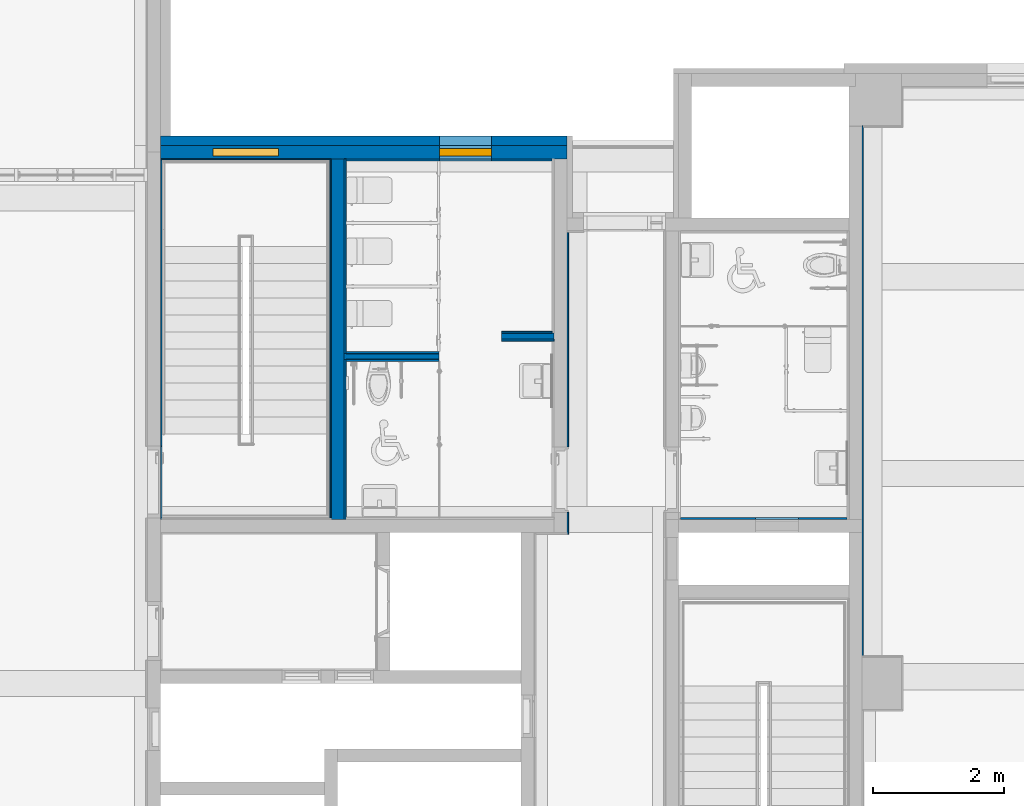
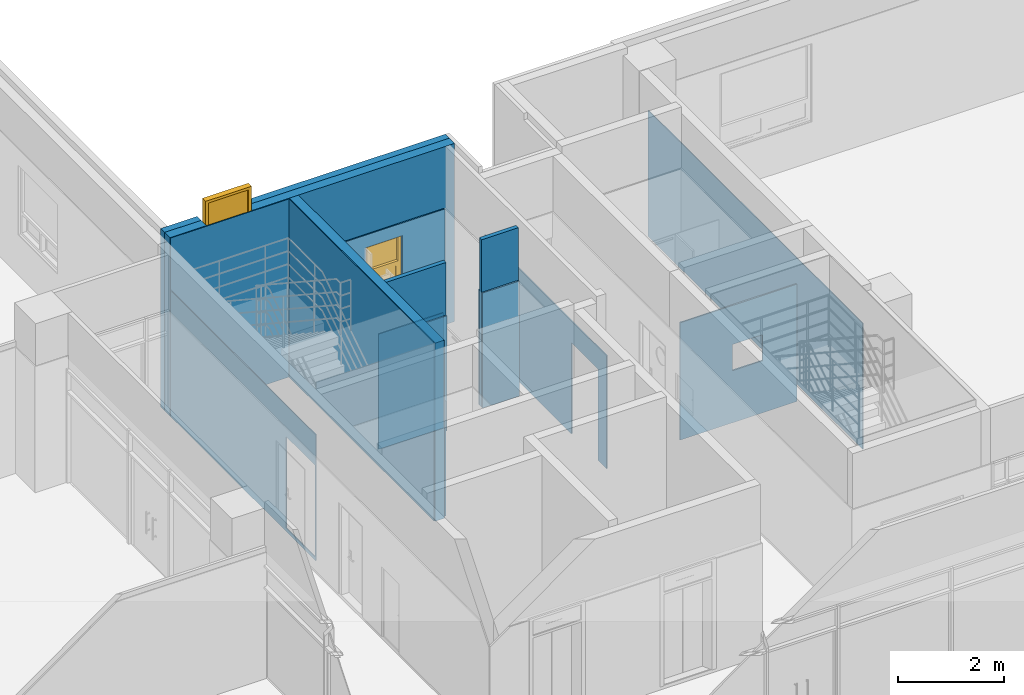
# One storey, part 59 of 81: 17 walls, 2 windows, 10 openings.
"""IFC2X3 building model written with IfcOpenShell, lengths in millimetres."""

import ifcopenshell
import ifcopenshell.guid

model = None  # the IFC model being written
_history = None  # IfcOwnerHistory: only IFC2X3 demands one
_inside = {}  # id of a spatial element -> (the spatial element, [elements in it])
_under = {}  # id of a project, library or spatial element -> (it, [spatial elements below it])
_declared = {}  # id of a project -> (the project, [libraries it declares])
_typed = {}  # id of a type object -> (the type object, [elements of that type])
_made_of = {}  # id of a material, layer set ... -> (it, [elements and type objects made of it])


def new_model(schema):
    """Start an empty IFC model of exactly this schema.

    Asked for "IFC4X3", IfcOpenShell would pick the latest addendum, in which some entities
    have other attributes; the version numbers below select the first issue.
    IFC2X3 requires an IfcOwnerHistory on every rooted entity: one is made here for all.
    """
    global model, _history
    if schema == "IFC4X3":
        model = ifcopenshell.file(schema_version=(4, 3, 0, 0))
    else:
        model = ifcopenshell.file(schema=schema)
    _inside.clear()
    _under.clear()
    _declared.clear()
    _typed.clear()
    _made_of.clear()
    _history = None
    if model.schema == "IFC2X3":
        org = make("IfcOrganization", Name="unknown")
        user = make(
            "IfcPersonAndOrganization",
            ThePerson=make("IfcPerson", FamilyName="unknown"),
            TheOrganization=org,
        )
        app = make(
            "IfcApplication",
            ApplicationDeveloper=org,
            Version="unknown",
            ApplicationFullName="unknown",
            ApplicationIdentifier="unknown",
        )
        _history = make(
            "IfcOwnerHistory",
            OwningUser=user,
            OwningApplication=app,
            ChangeAction="ADDED",
            CreationDate=0,
        )
    return model


def make(cls, **values):
    """One entity of the class cls with the attributes given. An attribute that is None is left unset."""
    return model.create_entity(
        cls, **{name: value for name, value in values.items() if value is not None}
    )


def entity(cls, *values):
    """Any entity or typed value of the class cls, its attributes in the order of the schema. None: left unset."""
    e = model.create_entity(cls)
    for i, value in enumerate(values):
        if value is not None:
            e[i] = value
    return e


def rooted(cls, **values):
    """An entity with a GlobalId (a new one), such as an element, a storey or a relation."""
    return make(cls, GlobalId=ifcopenshell.guid.new(), OwnerHistory=_history, **values)


def si_unit(unit_type, name, prefix=None):
    """IfcSIUnit, for example si_unit("LENGTHUNIT", "METRE", prefix="MILLI")."""
    return make("IfcSIUnit", UnitType=unit_type, Prefix=prefix, Name=name)


def converted_unit(unit_type, name, factor, base, dimensions=None, offset=None):
    """IfcConversionBasedUnit, such as the inch: factor (a typed value) times the base unit."""
    return make(
        "IfcConversionBasedUnit"
        if offset is None
        else "IfcConversionBasedUnitWithOffset",
        ConversionOffset=offset,
        Dimensions=None
        if dimensions is None
        else entity("IfcDimensionalExponents", *dimensions),
        UnitType=unit_type,
        Name=name,
        ConversionFactor=make(
            "IfcMeasureWithUnit", ValueComponent=factor, UnitComponent=base
        ),
    )


def derived_unit(unit_type, elements):
    """IfcDerivedUnit: a product of units, each with its exponent."""
    return make(
        "IfcDerivedUnit",
        Elements=[
            make("IfcDerivedUnitElement", Unit=unit, Exponent=power)
            for unit, power in elements
        ],
        UnitType=unit_type,
    )


def assignment(units):
    """IfcUnitAssignment: the units of a project."""
    return None if units is None else make("IfcUnitAssignment", Units=units)


def point(xyz):
    """IfcCartesianPoint."""
    return None if xyz is None else make("IfcCartesianPoint", Coordinates=xyz)


def direction(xyz):
    """IfcDirection."""
    return None if xyz is None else make("IfcDirection", DirectionRatios=xyz)


def frame(location, z_axis=None, x_axis=None):
    """IfcAxis2Placement3D, a coordinate frame: its origin and axes. An axis left out is left unset."""
    return make(
        "IfcAxis2Placement3D",
        Location=point(location),
        Axis=direction(z_axis),
        RefDirection=direction(x_axis),
    )


def frame_2d(location, x_axis=None):
    """IfcAxis2Placement2D, a coordinate frame in the plane: its origin and x axis."""
    return make(
        "IfcAxis2Placement2D", Location=point(location), RefDirection=direction(x_axis)
    )


def origin():
    """The frame at (0, 0, 0) with its axes left unset."""
    return frame((0.0, 0.0, 0.0))


def origin_2d_with_axis():
    """The frame at (0, 0) in the plane with the x axis (1, 0) written out."""
    return frame_2d((0.0, 0.0), x_axis=(1.0, 0.0))


def place(relative_to, where):
    """IfcLocalPlacement: puts the frame where relative to a parent placement (None: the world)."""
    return make(
        "IfcLocalPlacement", PlacementRelTo=relative_to, RelativePlacement=where
    )


def context(
    kind, dimensions, precision=None, world=None, true_north=None, identifier=None
):
    """IfcGeometricRepresentationContext, for example the 3D "Model" context."""
    return make(
        "IfcGeometricRepresentationContext",
        ContextIdentifier=identifier,
        ContextType=kind,
        CoordinateSpaceDimension=dimensions,
        Precision=precision,
        WorldCoordinateSystem=world,
        TrueNorth=true_north,
    )


def subcontext(parent, identifier, kind, view, scale=None):
    """IfcGeometricRepresentationSubContext, for example "Body" below "Model"."""
    return make(
        "IfcGeometricRepresentationSubContext",
        ContextIdentifier=identifier,
        ContextType=kind,
        ParentContext=parent,
        TargetScale=scale,
        TargetView=view,
    )


def project(units=None, contexts=None):
    """IfcProject with its units and contexts."""
    return rooted(
        "IfcProject",
        Name="project",
        RepresentationContexts=contexts,
        UnitsInContext=assignment(units),
    )


def spatial(cls, under=None, at=None, **own):
    """A site, building, storey or space (cls), placed at a placement, below another one or the project."""
    s = rooted(cls, ObjectPlacement=at, **own)
    if under is not None:
        _under.setdefault(under.id(), (under, []))[1].append(s)
    return s


def profile(cls, at=None, kind="AREA", **sizes):
    """A parametric profile (cls). Its sizes go by their IFC names, for example OverallWidth=200.0."""
    return make(cls, ProfileType=kind, Position=at, **sizes)


def rectangle(**sizes):
    """IfcRectangleProfileDef."""
    return profile("IfcRectangleProfileDef", **sizes)


def extrude(swept, where, along, depth):
    """IfcExtrudedAreaSolid: the profile swept, set in the frame where, extruded along a direction by depth."""
    return make(
        "IfcExtrudedAreaSolid",
        SweptArea=swept,
        Position=where,
        ExtrudedDirection=direction(along),
        Depth=depth,
    )


def faces_of(points, faces, orient=None, outer=None):
    """IfcFace entities. A face is a list of loops; a loop is a list of indices into points, from 0.

    orient and outer hold one flag for each loop. By default every Orientation is true, the
    first loop of a face is its IfcFaceOuterBound and the others are IfcFaceBound.
    """
    made = []
    for i, loops in enumerate(faces):
        bounds = []
        for j, loop in enumerate(loops):
            is_outer = j == 0 if outer is None else outer[i][j]
            bounds.append(
                make(
                    "IfcFaceOuterBound" if is_outer else "IfcFaceBound",
                    Bound=make("IfcPolyLoop", Polygon=[points[k] for k in loop]),
                    Orientation=True if orient is None else orient[i][j],
                )
            )
        made.append(make("IfcFace", Bounds=bounds))
    return made


def faceted_brep(points, faces, orient=None, outer=None, voids=None):
    """IfcFacetedBrep: a solid bounded by flat faces; with voids (closed shells), ...WithVoids."""
    shared = [point(p) for p in points]
    hull = make("IfcClosedShell", CfsFaces=faces_of(shared, faces, orient, outer))
    if voids is None:
        return make("IfcFacetedBrep", Outer=hull)
    return make(
        "IfcFacetedBrepWithVoids",
        Outer=hull,
        Voids=[
            make(cls, CfsFaces=faces_of(shared, fs, o, b)) for cls, fs, o, b in voids
        ],
    )


def shape(context_of_items, identifier, shape_type, items):
    """IfcShapeRepresentation: the items that make up one representation, for example the "Body"."""
    return make(
        "IfcShapeRepresentation",
        ContextOfItems=context_of_items,
        RepresentationIdentifier=identifier,
        RepresentationType=shape_type,
        Items=items,
    )


def source(mapping_origin, context_of_items, identifier, shape_type, items):
    """IfcRepresentationMap: a shape defined once, which mapped items show again and again."""
    return make(
        "IfcRepresentationMap",
        MappingOrigin=mapping_origin,
        MappedRepresentation=shape(context_of_items, identifier, shape_type, items),
    )


def transform(
    local_origin,
    x_axis=None,
    y_axis=None,
    z_axis=None,
    scale=None,
    scale2=None,
    scale3=None,
    uniform=True,
):
    """IfcCartesianTransformationOperator3D, or its non-uniform kind. x_axis, y_axis, z_axis: its Axis1, 2, 3."""
    if uniform:
        return make(
            "IfcCartesianTransformationOperator3D",
            Axis1=direction(x_axis),
            Axis2=direction(y_axis),
            LocalOrigin=point(local_origin),
            Scale=scale,
            Axis3=direction(z_axis),
        )
    return make(
        "IfcCartesianTransformationOperator3DnonUniform",
        Axis1=direction(x_axis),
        Axis2=direction(y_axis),
        LocalOrigin=point(local_origin),
        Scale=scale,
        Axis3=direction(z_axis),
        Scale2=scale2,
        Scale3=scale3,
    )


def mapped(mapping_source, mapping_target):
    """IfcMappedItem: shows the shape of a source again, moved by a transform."""
    return make(
        "IfcMappedItem", MappingSource=mapping_source, MappingTarget=mapping_target
    )


def material(Name=None, Category=None):
    """IfcMaterial."""
    return make("IfcMaterial", Name=Name, Category=Category)


def material_list(materials):
    """IfcMaterialList."""
    return make("IfcMaterialList", Materials=materials)


def layer(
    of_material, thickness, ventilated=None, Name=None, Category=None, Priority=None
):
    """IfcMaterialLayer: one layer of a wall or slab, of a material (None: an air gap)."""
    return make(
        "IfcMaterialLayer",
        Material=of_material,
        LayerThickness=thickness,
        IsVentilated=ventilated,
        Name=Name,
        Category=Category,
        Priority=Priority,
    )


def layer_set(layers, Name=None):
    """IfcMaterialLayerSet."""
    return make("IfcMaterialLayerSet", MaterialLayers=layers, LayerSetName=Name)


def layer_usage(for_layer_set, set_direction, sense, offset, extent=None):
    """IfcMaterialLayerSetUsage: how a layer set lies in its element."""
    return make(
        "IfcMaterialLayerSetUsage",
        ForLayerSet=for_layer_set,
        LayerSetDirection=set_direction,
        DirectionSense=sense,
        OffsetFromReferenceLine=offset,
        ReferenceExtent=extent,
    )


def made_of(thing, what):
    """Note that an element or type object is made of a material, layer set ...; save() writes the relation."""
    if what is not None:
        _made_of.setdefault(what.id(), (what, []))[1].append(thing)
    return thing


def type_object(cls, material=None, **own):
    """A type object (cls), such as IfcWallType, which elements share."""
    return made_of(rooted(cls, **own), material)


def type_shapes(of_type, sources):
    """Give a type object the sources (RepresentationMaps) that its elements show as mapped items."""
    of_type.RepresentationMaps = sources


def element(
    cls,
    number,
    at=None,
    inside=None,
    cuts=None,
    type_object=None,
    material=None,
    context=None,
    identifier="Body",
    shape_type=None,
    held_by="IfcProductDefinitionShape",
    body=None,
    shapes=None,
    **own,
):
    """One element of the class cls, such as IfcWall. Its Tag is "e" and its number.

    at: its placement. inside: the storey or other place that contains it. cuts: it is an
    opening in that element (IfcRelVoidsElement). A single representation is given by context,
    identifier, shape_type and body (its items); several are given by shapes. held_by: the class
    of the entity that holds the representations. save() writes the other relations.
    """
    e = rooted(cls, Tag="e%d" % number, ObjectPlacement=at, **own)
    if body is not None:
        shapes = [shape(context, identifier, shape_type, body)]
    if shapes is not None:
        e.Representation = make(held_by, Representations=shapes)
    if inside is not None:
        _inside.setdefault(inside.id(), (inside, []))[1].append(e)
    if cuts is not None:
        rooted(
            "IfcRelVoidsElement", RelatingBuildingElement=cuts, RelatedOpeningElement=e
        )
    if type_object is not None:
        _typed.setdefault(type_object.id(), (type_object, []))[1].append(e)
    return made_of(e, material)


def fill(opening, filler):
    """IfcRelFillsElement: the door or window that sits in an opening."""
    return rooted(
        "IfcRelFillsElement",
        RelatingOpeningElement=opening,
        RelatedBuildingElement=filler,
    )


def aggregate(whole, parts):
    """IfcRelAggregates: a whole, such as a stair, and the parts it consists of."""
    return rooted("IfcRelAggregates", RelatingObject=whole, RelatedObjects=parts)


def save(model, path):
    """Write the relations noted so far, then the file.

    IfcRelAggregates (storeys below a building ...), IfcRelContainedInSpatialStructure (elements
    in a storey), IfcRelDefinesByType, IfcRelAssociatesMaterial and IfcRelDeclares: one each for
    every whole, place, type object, material and project.
    """
    for whole, parts in _under.values():
        aggregate(whole, parts)
    for where, things in _inside.values():
        rooted(
            "IfcRelContainedInSpatialStructure",
            RelatedElements=things,
            RelatingStructure=where,
        )
    for kind, things in _typed.values():
        rooted("IfcRelDefinesByType", RelatedObjects=things, RelatingType=kind)
    for what, things in _made_of.values():
        rooted("IfcRelAssociatesMaterial", RelatedObjects=things, RelatingMaterial=what)
    for by, libraries in _declared.values():
        rooted("IfcRelDeclares", RelatingContext=by, RelatedDefinitions=libraries)
    model.write(path)


model = new_model("IFC2X3")

# Units and contexts
model_context = context("Model", 3, precision=0.01, world=origin(), true_north=direction((6.123031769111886e-17, 1.0)))
body_context = subcontext(model_context, "Body", "Model", "MODEL_VIEW")
ifc_project = project(units=[si_unit("LENGTHUNIT", "METRE", prefix="MILLI"), si_unit("AREAUNIT", "SQUARE_METRE"), si_unit("VOLUMEUNIT", "CUBIC_METRE"), converted_unit("PLANEANGLEUNIT", "DEGREE", entity("IfcRatioMeasure", 0.017453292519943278), si_unit("PLANEANGLEUNIT", "RADIAN"), dimensions=[0, 0, 0, 0, 0, 0, 0]), si_unit("MASSUNIT", "GRAM", prefix="KILO"), derived_unit("MASSDENSITYUNIT", [(si_unit("MASSUNIT", "GRAM", prefix="KILO"), 1), (si_unit("LENGTHUNIT", "METRE"), -3)]), derived_unit("MOMENTOFINERTIAUNIT", [(si_unit("LENGTHUNIT", "METRE"), 4)]), si_unit("TIMEUNIT", "SECOND"), si_unit("FREQUENCYUNIT", "HERTZ"), si_unit("THERMODYNAMICTEMPERATUREUNIT", "DEGREE_CELSIUS"), derived_unit("THERMALTRANSMITTANCEUNIT", [(si_unit("MASSUNIT", "GRAM", prefix="KILO"), 1), (si_unit("THERMODYNAMICTEMPERATUREUNIT", "KELVIN"), -1), (si_unit("TIMEUNIT", "SECOND"), -3)]), derived_unit("VOLUMETRICFLOWRATEUNIT", [(si_unit("LENGTHUNIT", "METRE"), 3), (si_unit("TIMEUNIT", "SECOND"), -1)]), derived_unit("MASSFLOWRATEUNIT", [(si_unit("MASSUNIT", "GRAM", prefix="KILO"), 1), (si_unit("TIMEUNIT", "SECOND"), -1)]), derived_unit("ROTATIONALFREQUENCYUNIT", [(si_unit("TIMEUNIT", "SECOND"), -1)]), si_unit("ELECTRICCURRENTUNIT", "AMPERE"), si_unit("ELECTRICVOLTAGEUNIT", "VOLT"), si_unit("POWERUNIT", "WATT"), si_unit("FORCEUNIT", "NEWTON", prefix="KILO"), si_unit("ILLUMINANCEUNIT", "LUX"), si_unit("LUMINOUSFLUXUNIT", "LUMEN"), si_unit("LUMINOUSINTENSITYUNIT", "CANDELA"), derived_unit("USERDEFINED", [(si_unit("MASSUNIT", "GRAM", prefix="KILO"), -1), (si_unit("LENGTHUNIT", "METRE"), -2), (si_unit("TIMEUNIT", "SECOND"), 3), (si_unit("LUMINOUSFLUXUNIT", "LUMEN"), 1)]), derived_unit("SOUNDPOWERUNIT", [(si_unit("MASSUNIT", "GRAM", prefix="KILO"), 1), (si_unit("LENGTHUNIT", "METRE"), 2), (si_unit("TIMEUNIT", "SECOND"), -3)]), derived_unit("SOUNDPRESSUREUNIT", [(si_unit("MASSUNIT", "GRAM", prefix="KILO"), 1), (si_unit("LENGTHUNIT", "METRE"), -1), (si_unit("TIMEUNIT", "SECOND"), -2)]), derived_unit("LINEARVELOCITYUNIT", [(si_unit("LENGTHUNIT", "METRE"), 1), (si_unit("TIMEUNIT", "SECOND"), -1)]), si_unit("PRESSUREUNIT", "PASCAL"), derived_unit("USERDEFINED", [(si_unit("LENGTHUNIT", "METRE"), -2), (si_unit("MASSUNIT", "GRAM", prefix="KILO"), 1), (si_unit("TIMEUNIT", "SECOND"), -2)]), derived_unit("LINEARFORCEUNIT", [(si_unit("MASSUNIT", "GRAM", prefix="KILO"), 1), (si_unit("LENGTHUNIT", "METRE"), 1), (si_unit("TIMEUNIT", "SECOND"), -2), (si_unit("LENGTHUNIT", "METRE"), -1)]), derived_unit("PLANARFORCEUNIT", [(si_unit("MASSUNIT", "GRAM", prefix="KILO"), 1), (si_unit("LENGTHUNIT", "METRE"), 1), (si_unit("TIMEUNIT", "SECOND"), -2), (si_unit("LENGTHUNIT", "METRE"), -2)])], contexts=[model_context])

# Site, building, storey
site_placement = place(None, frame((-14167.972527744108, -657.2125860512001, 0.0)))
site = spatial("IfcSite", under=ifc_project, at=site_placement, Name="Default", CompositionType="ELEMENT")
building_placement = place(site_placement, origin())
building = spatial("IfcBuilding", under=site, at=building_placement, Name="Sample Building", CompositionType="ELEMENT")
storey_placement = place(building_placement, frame((0.0, 0.0, 13400.0)))
storey = spatial("IfcBuildingStorey", under=building, at=storey_placement, Name="지상 4층", CompositionType="ELEMENT", Elevation=13400.00000000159)

# Wall, openings, windows
ifc_material_1 = material(Name="KBIMS-콘크리트")
ifc_layer_1 = layer(ifc_material_1, 200.0)
ifc_layer_set_1 = layer_set([ifc_layer_1], Name="기본 벽:WA111-철근콘크리트구조 벽 200mm_CW1")
ifc_layer_usage_1 = layer_usage(ifc_layer_set_1, "AXIS2", "NEGATIVE", 100.0)
wall_type_1 = type_object("IfcWallType", Name="기본 벽:WA111-철근콘크리트구조 벽 200mm_CW1", PredefinedType="STANDARD", material=ifc_layer_set_1)
wall_1_placement = place(storey_placement, frame((30267.963761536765, 28057.212307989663, -2.3000097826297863e-09)))
wall_1 = element("IfcWallStandardCase", 1, at=wall_1_placement, inside=storey, type_object=wall_type_1, material=ifc_layer_usage_1, Name="기본 벽:WA111-철근콘크리트구조 벽 200mm_CW1", ObjectType="기본 벽:WA111-철근콘크리트구조 벽 200mm_CW1", context=body_context, shape_type="SweptSolid", body=[
    extrude(rectangle(XDim=6200.0000366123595, YDim=199.99999999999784, at=frame_2d((3100.0000183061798, 0.0), x_axis=(-1.0, 0.0))), origin(), (0.0, 0.0, 1.0), 4100.000000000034),
])
opening_1_placement = place(wall_1_placement, origin())
element("IfcOpeningElement", 2, at=opening_1_placement, cuts=wall_1, Name="기본 벽:WA111-철근콘크리트구조 벽 200mm_CW1", ObjectType="Opening", context=body_context, shape_type="SweptSolid", body=[
    extrude(rectangle(XDim=1600.0000000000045, YDim=999.999999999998, at=origin_2d_with_axis()), frame((1299.0853912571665, -1624.0, -270.0), z_axis=(0.0, 1.0, 0.0), x_axis=(0.0, 0.0, 1.0)), (0.0, 0.0, 1.0), 3048.0),
])
opening_2_placement = place(wall_1_placement, frame((799.0853912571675, -100.0, 3030.0)))
opening_2 = element("IfcOpeningElement", 3, at=opening_2_placement, cuts=wall_1, Name="WD812-미들창(스테인리스 스틸):WD812-미들창(스테인리스 스틸) 하부개폐 1000x1600mm:1", ObjectType="Opening", context=body_context, shape_type="SweptSolid", body=[
    extrude(rectangle(XDim=1600.0000000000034, YDim=999.9999999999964, at=frame_2d((800.0000000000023, 499.9999999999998), x_axis=(1.0, 0.0))), frame((0.0, 0.0, 0.0), z_axis=(0.0, 1.0, 0.0), x_axis=(0.0, 0.0, 1.0)), (0.0, 0.0, 1.0), 200.0),
])
opening_3_placement = place(wall_1_placement, frame((5050.008729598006, 100.0, 1200.0)))
opening_3 = element("IfcOpeningElement", 4, at=opening_3_placement, cuts=wall_1, Name="WD812-미들창(스테인리스 스틸):WD812-미들창(스테인리스 스틸) 하부개폐 800x1200mm:1", ObjectType="Opening", context=body_context, shape_type="SweptSolid", body=[
    extrude(rectangle(XDim=1200.000000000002, YDim=799.9999999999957, at=frame_2d((600.0000000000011, 399.99999999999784), x_axis=(1.0, 0.0))), frame((0.0, 0.0, 0.0), z_axis=(0.0, -1.0, 0.0), x_axis=(0.0, 0.0, 1.0)), (0.0, 0.0, 1.0), 200.0),
])
ifc_material_2 = material(Name="KBIMS-스테인리스 스틸")
ifc_material_3 = material(Name="KBIMS-유리")
ifc_material_list_1 = material_list([ifc_material_2, ifc_material_3])
ifc_material_list_2 = material_list([ifc_material_2, ifc_material_3, ifc_material_2, ifc_material_2, ifc_material_3])
window_style_1 = type_object("IfcWindowStyle", Name="WD812-미들창(스테인리스 스틸):WD812-미들창(스테인리스 스틸) 하부개폐 1000x1600mm", ConstructionType="NOTDEFINED", OperationType="NOTDEFINED", ParameterTakesPrecedence=False, Sizeable=False, material=ifc_material_list_2)
shared_shape_1 = source(origin(), body_context, "Body", "Brep", [
    faceted_brep([(60.0, 40.0, 540.0), (60.0, 160.0, 540.0), (940.0, 160.0, 540.0), (940.0, 40.0, 540.0), (0.0, 160.0, 600.0), (0.0, 40.0, 600.0), (60.0, 40.0, 600.0), (940.0, 40.0, 600.0), (1000.0, 40.0, 600.0), (1000.0, 160.0, 600.0), (940.0, 160.0, 600.0), (60.0, 160.0, 600.0), (940.0, 160.0, 60.0), (940.0, 40.0, 60.0), (1000.0, 40.0, 0.0), (1000.0, 160.0, 0.0), (60.0, 160.0, 60.0), (60.0, 40.0, 60.0), (0.0, 40.0, 0.0), (0.0, 160.0, 0.0)], [[[0, 1, 2, 3]], [[4, 5, 6, 7, 8, 9, 10, 11]], [[3, 2, 12, 13]], [[9, 8, 14, 15]], [[13, 12, 16, 17]], [[15, 14, 18, 19]], [[17, 16, 1, 0]], [[3, 13, 17, 0], [5, 18, 14, 8, 7, 6]], [[19, 18, 5, 4]], [[1, 16, 12, 2], [9, 15, 19, 4, 11, 10]]], outer=[[True], [True], [True], [True], [True], [True], [True], [False, True], [True], [False, True]]),
    faceted_brep([(900.0, 151.0, 500.0), (100.0, 151.0, 500.0), (100.0, 139.0, 500.0), (900.0, 139.0, 500.0), (900.0, 151.0, 100.0), (900.0, 139.0, 100.0), (100.0, 139.0, 100.0), (100.0, 151.0, 100.0)], [[[0, 1, 2, 3]], [[4, 5, 6, 7]], [[1, 0, 4, 7]], [[2, 1, 7, 6]], [[3, 2, 6, 5]], [[0, 3, 5, 4]]]),
    faceted_brep([(890.0, 130.0, 490.0), (890.0, 130.0, 110.0), (110.0, 130.0, 110.0), (110.0, 130.0, 490.0), (60.0, 130.0, 540.0), (60.0, 130.0, 60.0), (940.0, 130.0, 60.0), (940.0, 130.0, 540.0), (110.0, 139.0, 110.0), (110.0, 139.0, 490.0), (900.0, 139.0, 500.0), (900.0, 139.0, 100.0), (100.0, 139.0, 100.0), (100.0, 139.0, 500.0), (890.0, 139.0, 110.0), (890.0, 139.0, 490.0), (100.0, 151.0, 100.0), (100.0, 151.0, 500.0), (890.0, 151.0, 490.0), (890.0, 151.0, 110.0), (110.0, 151.0, 110.0), (110.0, 151.0, 490.0), (900.0, 151.0, 100.0), (900.0, 151.0, 500.0), (110.0, 160.0, 110.0), (110.0, 160.0, 490.0), (940.0, 160.0, 60.0), (60.0, 160.0, 60.0), (890.0, 160.0, 490.0), (60.0, 160.0, 540.0), (940.0, 160.0, 540.0), (890.0, 160.0, 110.0)], [[[0, 1, 2, 3], [4, 5, 6, 7]], [[2, 8, 9, 3]], [[10, 11, 12, 13], [9, 8, 14, 15]], [[12, 16, 17, 13]], [[18, 19, 20, 21], [17, 16, 22, 23]], [[20, 24, 25, 21]], [[26, 6, 5, 27]], [[21, 25, 28, 18]], [[13, 17, 23, 10]], [[3, 9, 15, 0]], [[29, 4, 7, 30]], [[18, 28, 31, 19]], [[10, 23, 22, 11]], [[0, 15, 14, 1]], [[30, 7, 6, 26]], [[19, 31, 24, 20]], [[11, 22, 16, 12]], [[1, 14, 8, 2]], [[27, 5, 4, 29]], [[25, 24, 31, 28], [30, 26, 27, 29]]], outer=[[False, True], [True], [True, False], [True], [False, True], [True], [True], [True], [True], [True], [True], [True], [True], [True], [True], [True], [True], [True], [True], [False, True]]),
    faceted_brep([(60.0, 160.0, 600.0), (60.0, 40.0, 600.0), (0.0, 40.0, 600.0), (0.0, 160.0, 600.0), (60.0, 40.0, 1540.0), (60.0, 160.0, 1540.0), (940.0, 160.0, 1540.0), (940.0, 40.0, 1540.0), (0.0, 160.0, 1600.0), (0.0, 40.0, 1600.0), (1000.0, 40.0, 1600.0), (1000.0, 160.0, 1600.0), (940.0, 160.0, 600.0), (940.0, 40.0, 600.0), (1000.0, 40.0, 600.0), (1000.0, 160.0, 600.0)], [[[0, 1, 2, 3]], [[4, 5, 6, 7]], [[8, 9, 10, 11]], [[7, 6, 12, 13]], [[11, 10, 14, 15]], [[12, 15, 14, 13]], [[1, 0, 5, 4]], [[2, 1, 4, 7, 13, 14, 10, 9]], [[3, 2, 9, 8]], [[0, 3, 8, 11, 15, 12, 6, 5]]]),
    faceted_brep([(940.0, 106.0, 1540.0), (60.0, 106.0, 1540.0), (60.0, 94.0, 1540.0), (940.0, 94.0, 1540.0), (940.0, 106.0, 600.0), (940.0, 94.0, 600.0), (60.0, 94.0, 600.0), (60.0, 106.0, 600.0)], [[[0, 1, 2, 3]], [[4, 5, 6, 7]], [[1, 0, 4, 7]], [[2, 1, 7, 6]], [[3, 2, 6, 5]], [[0, 3, 5, 4]]]),
])
type_shapes(window_style_1, [shared_shape_1])
window_1_placement = place(opening_2_placement, frame((0.0, 0.0, 2.2992026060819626e-09)))
window_1 = element("IfcWindow", 5, at=window_1_placement, inside=storey, type_object=window_style_1, material=ifc_material_list_1, Name="WD812-미들창(스테인리스 스틸):WD812-미들창(스테인리스 스틸) 하부개폐 1000x1600mm", ObjectType="WD812-미들창(스테인리스 스틸):WD812-미들창(스테인리스 스틸) 하부개폐 1000x1600mm", OverallHeight=1600.0000000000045, OverallWidth=999.999999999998, context=body_context, shape_type="MappedRepresentation", body=[
    mapped(shared_shape_1, transform((0.0, 0.0, 0.0), scale=1.0)),
])
fill(opening_2, window_1)
ifc_material_list_3 = material_list([ifc_material_2, ifc_material_3])
ifc_material_list_4 = material_list([ifc_material_2, ifc_material_3, ifc_material_2, ifc_material_2, ifc_material_3])
window_style_2 = type_object("IfcWindowStyle", Name="WD812-미들창(스테인리스 스틸):WD812-미들창(스테인리스 스틸) 하부개폐 800x1200mm", ConstructionType="NOTDEFINED", OperationType="NOTDEFINED", ParameterTakesPrecedence=False, Sizeable=False, material=ifc_material_list_4)
shared_shape_2 = source(origin(), body_context, "Body", "Brep", [
    faceted_brep([(60.0, 40.0, 540.0), (60.0, 160.0, 540.0), (740.0, 160.0, 540.0), (740.0, 40.0, 540.0), (0.0, 160.0, 600.0), (0.0, 40.0, 600.0), (60.0, 40.0, 600.0), (740.0, 40.0, 600.0), (800.0, 40.0, 600.0), (800.0, 160.0, 600.0), (740.0, 160.0, 600.0), (60.0, 160.0, 600.0), (740.0, 160.0, 60.0), (740.0, 40.0, 60.0), (800.0, 40.0, 0.0), (800.0, 160.0, 0.0), (60.0, 160.0, 60.0), (60.0, 40.0, 60.0), (0.0, 40.0, 0.0), (0.0, 160.0, 0.0)], [[[0, 1, 2, 3]], [[4, 5, 6, 7, 8, 9, 10, 11]], [[3, 2, 12, 13]], [[9, 8, 14, 15]], [[13, 12, 16, 17]], [[15, 14, 18, 19]], [[17, 16, 1, 0]], [[3, 13, 17, 0], [5, 18, 14, 8, 7, 6]], [[19, 18, 5, 4]], [[1, 16, 12, 2], [9, 15, 19, 4, 11, 10]]], outer=[[True], [True], [True], [True], [True], [True], [True], [False, True], [True], [False, True]]),
    faceted_brep([(700.0, 151.0, 500.0), (100.0, 151.0, 500.0), (100.0, 139.0, 500.0), (700.0, 139.0, 500.0), (700.0, 151.0, 100.0), (700.0, 139.0, 100.0), (100.0, 139.0, 100.0), (100.0, 151.0, 100.0)], [[[0, 1, 2, 3]], [[4, 5, 6, 7]], [[1, 0, 4, 7]], [[2, 1, 7, 6]], [[3, 2, 6, 5]], [[0, 3, 5, 4]]]),
    faceted_brep([(690.0, 130.0, 490.0), (690.0, 130.0, 110.0), (110.0, 130.0, 110.0), (110.0, 130.0, 490.0), (60.0, 130.0, 540.0), (60.0, 130.0, 60.0), (740.0, 130.0, 60.0), (740.0, 130.0, 540.0), (110.0, 139.0, 110.0), (110.0, 139.0, 490.0), (700.0, 139.0, 500.0), (700.0, 139.0, 100.0), (100.0, 139.0, 100.0), (100.0, 139.0, 500.0), (690.0, 139.0, 110.0), (690.0, 139.0, 490.0), (100.0, 151.0, 100.0), (100.0, 151.0, 500.0), (690.0, 151.0, 490.0), (690.0, 151.0, 110.0), (110.0, 151.0, 110.0), (110.0, 151.0, 490.0), (700.0, 151.0, 100.0), (700.0, 151.0, 500.0), (110.0, 160.0, 110.0), (110.0, 160.0, 490.0), (740.0, 160.0, 60.0), (60.0, 160.0, 60.0), (690.0, 160.0, 490.0), (60.0, 160.0, 540.0), (740.0, 160.0, 540.0), (690.0, 160.0, 110.0)], [[[0, 1, 2, 3], [4, 5, 6, 7]], [[2, 8, 9, 3]], [[10, 11, 12, 13], [9, 8, 14, 15]], [[12, 16, 17, 13]], [[18, 19, 20, 21], [17, 16, 22, 23]], [[20, 24, 25, 21]], [[26, 6, 5, 27]], [[21, 25, 28, 18]], [[13, 17, 23, 10]], [[3, 9, 15, 0]], [[29, 4, 7, 30]], [[18, 28, 31, 19]], [[10, 23, 22, 11]], [[0, 15, 14, 1]], [[30, 7, 6, 26]], [[19, 31, 24, 20]], [[11, 22, 16, 12]], [[1, 14, 8, 2]], [[27, 5, 4, 29]], [[25, 24, 31, 28], [30, 26, 27, 29]]], outer=[[False, True], [True], [True, False], [True], [False, True], [True], [True], [True], [True], [True], [True], [True], [True], [True], [True], [True], [True], [True], [True], [False, True]]),
    faceted_brep([(60.0, 160.0, 600.0), (60.0, 40.0, 600.0), (0.0, 40.0, 600.0), (0.0, 160.0, 600.0), (60.0, 40.0, 1140.0), (60.0, 160.0, 1140.0), (740.0, 160.0, 1140.0), (740.0, 40.0, 1140.0), (0.0, 160.0, 1200.0), (0.0, 40.0, 1200.0), (800.0, 40.0, 1200.0), (800.0, 160.0, 1200.0), (740.0, 160.0, 600.0), (740.0, 40.0, 600.0), (800.0, 40.0, 600.0), (800.0, 160.0, 600.0)], [[[0, 1, 2, 3]], [[4, 5, 6, 7]], [[8, 9, 10, 11]], [[7, 6, 12, 13]], [[11, 10, 14, 15]], [[12, 15, 14, 13]], [[1, 0, 5, 4]], [[2, 1, 4, 7, 13, 14, 10, 9]], [[3, 2, 9, 8]], [[0, 3, 8, 11, 15, 12, 6, 5]]]),
    faceted_brep([(740.0, 106.0, 1140.0), (60.0, 106.0, 1140.0), (60.0, 94.0, 1140.0), (740.0, 94.0, 1140.0), (740.0, 106.0, 600.0), (740.0, 94.0, 600.0), (60.0, 94.0, 600.0), (60.0, 106.0, 600.0)], [[[0, 1, 2, 3]], [[4, 5, 6, 7]], [[1, 0, 4, 7]], [[2, 1, 7, 6]], [[3, 2, 6, 5]], [[0, 3, 5, 4]]]),
])
type_shapes(window_style_2, [shared_shape_2])
window_2_placement = place(opening_3_placement, frame((0.0, 0.0, 2.2992026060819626e-09), z_axis=(0.0, 0.0, 1.0), x_axis=(-1.0, 0.0, 0.0)))
window_2 = element("IfcWindow", 6, at=window_2_placement, inside=storey, type_object=window_style_2, material=ifc_material_list_3, Name="WD812-미들창(스테인리스 스틸):WD812-미들창(스테인리스 스틸) 하부개폐 800x1200mm", ObjectType="WD812-미들창(스테인리스 스틸):WD812-미들창(스테인리스 스틸) 하부개폐 800x1200mm", OverallHeight=1200.0000000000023, OverallWidth=799.9999999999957, context=body_context, shape_type="MappedRepresentation", body=[
    mapped(shared_shape_2, transform((0.0, 0.0, 0.0), scale=1.0)),
])
fill(opening_3, window_2)

# Wall
ifc_layer_usage_2 = layer_usage(ifc_layer_set_1, "AXIS2", "NEGATIVE", 100.0)
wall_2_placement = place(storey_placement, frame((32967.97249113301, 27957.212307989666, -2.3000097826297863e-09), z_axis=(0.0, 0.0, 1.0), x_axis=(0.0, -1.0, 0.0)))
element("IfcWallStandardCase", 7, at=wall_2_placement, inside=storey, type_object=wall_type_1, material=ifc_layer_usage_2, Name="기본 벽:WA111-철근콘크리트구조 벽 200mm_CW1", ObjectType="기본 벽:WA111-철근콘크리트구조 벽 200mm_CW1", context=body_context, shape_type="SweptSolid", body=[
    extrude(rectangle(XDim=5499.999996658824, YDim=199.99999999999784, at=frame_2d((2749.999998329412, -4.263256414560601e-14), x_axis=(-1.0, 0.0))), origin(), (0.0, 0.0, 1.0), 4100.000000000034),
])

# Wall, openings
ifc_material_4 = material(Name="WA240-ALC블록벽")
ifc_layer_2 = layer(ifc_material_4, 35.0)
ifc_material_5 = material(Name="WA795-(STEEL)BRACKET")
ifc_layer_3 = layer(ifc_material_5, 65.0)
ifc_material_6 = material(Name="WA821-압출스티로폼 벽 (본드붙임, 비중0.03) 50mm")
ifc_layer_4 = layer(ifc_material_6, 50.0)
ifc_layer_set_2 = layer_set([ifc_layer_2, ifc_layer_3, ifc_layer_4], Name="기본 벽:A2-22-02A-압출스티로폼, BRACKET(STEEL), ALC블록 (150mm)")
ifc_layer_usage_3 = layer_usage(ifc_layer_set_2, "AXIS2", "POSITIVE", -75.0)
wall_type_2 = type_object("IfcWallType", Name="기본 벽:A2-22-02A-압출스티로폼, BRACKET(STEEL), ALC블록 (150mm)", PredefinedType="STANDARD", material=ifc_layer_set_2)
wall_3_placement = place(storey_placement, frame((36467.963798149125, 28232.212307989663, -2.3000097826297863e-09), z_axis=(0.0, 0.0, 1.0), x_axis=(-1.0, 0.0, 0.0)))
wall_3 = element("IfcWallStandardCase", 8, at=wall_3_placement, inside=storey, type_object=wall_type_2, material=ifc_layer_usage_3, Name="기본 벽:A2-22-02A-압출스티로폼, BRACKET(STEEL), ALC블록 (150mm)", ObjectType="기본 벽:A2-22-02A-압출스티로폼, BRACKET(STEEL), ALC블록 (150mm)", context=body_context, shape_type="SweptSolid", body=[
    extrude(rectangle(XDim=6200.000036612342, YDim=150.00000000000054, at=frame_2d((3100.000018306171, 0.0), x_axis=(1.0, 0.0))), origin(), (0.0, 0.0, 1.0), 4099.999999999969),
])
opening_4_placement = place(wall_3_placement, origin())
element("IfcOpeningElement", 9, at=opening_4_placement, cuts=wall_3, Name="기본 벽:A2-22-02A-압출스티로폼, BRACKET(STEEL), ALC블록 (150mm)", ObjectType="Opening", context=body_context, shape_type="SweptSolid", body=[
    extrude(rectangle(XDim=1600.0000000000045, YDim=999.999999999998, at=frame_2d((0.0, 0.0), x_axis=(0.0, 1.0))), frame((4900.914645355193, -1249.0, -270.0), z_axis=(0.0, 1.0, 0.0), x_axis=(-1.0, 0.0, 0.0)), (0.0, 0.0, 1.0), 3048.0),
])
opening_5_placement = place(wall_3_placement, origin())
element("IfcOpeningElement", 10, at=opening_5_placement, cuts=wall_3, Name="기본 벽:A2-22-02A-압출스티로폼, BRACKET(STEEL), ALC블록 (150mm)", ObjectType="Opening", context=body_context, shape_type="SweptSolid", body=[
    extrude(rectangle(XDim=1600.0000000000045, YDim=999.999999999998, at=frame_2d((0.0, -1.1368683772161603e-12), x_axis=(0.0, 1.0))), frame((4900.914645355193, -1249.0, 3830.0), z_axis=(0.0, 1.0, 0.0), x_axis=(-1.0, 0.0, 0.0)), (0.0, 0.0, 1.0), 3048.0),
])
opening_6_placement = place(wall_3_placement, origin())
element("IfcOpeningElement", 11, at=opening_6_placement, cuts=wall_3, Name="기본 벽:A2-22-02A-압출스티로폼, BRACKET(STEEL), ALC블록 (150mm)", ObjectType="Opening", context=body_context, shape_type="SweptSolid", body=[
    extrude(rectangle(XDim=1200.0000000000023, YDim=799.9999999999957, at=frame_2d((-1.0800249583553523e-12, -2.1600499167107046e-12), x_axis=(1.0, 0.0))), frame((1549.991307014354, -1449.0, 1800.0), z_axis=(0.0, 1.0, 0.0), x_axis=(0.0, 0.0, 1.0)), (0.0, 0.0, 1.0), 3048.0),
])

# Walls
ifc_material_7 = material(Name="KBIMS-시멘트 벽돌")
ifc_layer_5 = layer(ifc_material_7, 90.0)
ifc_layer_set_3 = layer_set([ifc_layer_5], Name="기본 벽:WA211-시멘트벽돌(일반) 벽 (0.5B) 90mm")
ifc_layer_usage_4 = layer_usage(ifc_layer_set_3, "AXIS2", "NEGATIVE", 45.0)
wall_type_3 = type_object("IfcWallType", Name="기본 벽:WA211-시멘트벽돌(일반) 벽 (0.5B) 90mm", PredefinedType="STANDARD", material=ifc_layer_set_3)
wall_4_placement = place(storey_placement, frame((33067.972491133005, 24941.74389776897, -50.0)))
element("IfcWallStandardCase", 12, at=wall_4_placement, inside=storey, type_object=wall_type_3, material=ifc_layer_usage_4, Name="기본 벽:WA211-시멘트벽돌(일반) 벽 (0.5B) 90mm", ObjectType="기본 벽:WA211-시멘트벽돌(일반) 벽 (0.5B) 90mm", context=body_context, shape_type="SweptSolid", body=[
    extrude(rectangle(XDim=1444.991263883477, YDim=90.0000000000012, at=frame_2d((722.4956319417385, -2.3234747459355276e-12), x_axis=(-1.0, 0.0))), origin(), (0.0, 0.0, 1.0), 3950.0000000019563),
])
ifc_layer_usage_5 = layer_usage(ifc_layer_set_3, "AXIS2", "NEGATIVE", 45.0)
wall_5_placement = place(storey_placement, frame((35467.9637981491, 25252.21230798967, 40.0)))
element("IfcWallStandardCase", 13, at=wall_5_placement, inside=storey, type_object=wall_type_3, material=ifc_layer_usage_5, Name="기본 벽:WA211-시멘트벽돌(일반) 벽 (0.5B) 90mm", ObjectType="기본 벽:WA211-시멘트벽돌(일반) 벽 (0.5B) 90mm", context=body_context, shape_type="SweptSolid", body=[
    extrude(rectangle(XDim=800.0000000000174, YDim=90.0000000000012, at=frame_2d((400.0000000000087, -2.8919089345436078e-12), x_axis=(-1.0, 0.0))), origin(), (0.0, 0.0, 1.0), 3860.000000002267),
])
ifc_material_8 = material(Name="WA611-수성페인트 (내부) 벽 (3회)")
ifc_layer_6 = layer(ifc_material_8, 1.0)
ifc_material_9 = material(Name="WA551-시멘트모르타르 (내부) 벽 18mm")
ifc_layer_7 = layer(ifc_material_9, 16.0)
ifc_material_10 = material(Name="WA555-콘크리트면정리 벽 (내부)")
ifc_layer_8 = layer(ifc_material_10, 1.0)
ifc_layer_set_4 = layer_set([ifc_layer_6, ifc_layer_7, ifc_layer_8], Name="기본 벽:A1-32-06A-콘크리트면정리, 시멘트모르타르(미장용), 수성페인트(내부) (18mm)")
ifc_layer_usage_6 = layer_usage(ifc_layer_set_4, "AXIS2", "POSITIVE", -9.000000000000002)
wall_type_4 = type_object("IfcWallType", Name="기본 벽:A1-32-06A-콘크리트면정리, 시멘트모르타르(미장용), 수성페인트(내부) (18mm)", PredefinedType="STANDARD", material=ifc_layer_set_4)
wall_6_placement = place(storey_placement, frame((30267.963779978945, 27948.211898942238, 0.0)))
element("IfcWallStandardCase", 14, at=wall_6_placement, inside=storey, type_object=wall_type_4, material=ifc_layer_usage_6, Name="기본 벽:A1-32-06A-콘크리트면정리, 시멘트모르타르(미장용), 수성페인트(내부) (18mm)", ObjectType="기본 벽:A1-32-06A-콘크리트면정리, 시멘트모르타르(미장용), 수성페인트(내부) (18mm)", context=body_context, shape_type="SweptSolid", body=[
    extrude(rectangle(XDim=2582.008729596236, YDim=18.00000000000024, at=frame_2d((1291.004364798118, -2.1662671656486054e-12), x_axis=(-1.0, 0.0))), origin(), (0.0, 0.0, 1.0), 4099.999999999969),
])

# Wall, opening
ifc_layer_usage_7 = layer_usage(ifc_layer_set_4, "AXIS2", "POSITIVE", -9.000000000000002)
wall_7_placement = place(storey_placement, frame((30276.96377997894, 22457.211902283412, 0.0), z_axis=(0.0, 0.0, 1.0), x_axis=(0.0, 1.0, 0.0)))
wall_7 = element("IfcWallStandardCase", 15, at=wall_7_placement, inside=storey, type_object=wall_type_4, material=ifc_layer_usage_7, Name="기본 벽:A1-32-06A-콘크리트면정리, 시멘트모르타르(미장용), 수성페인트(내부) (18mm)", ObjectType="기본 벽:A1-32-06A-콘크리트면정리, 시멘트모르타르(미장용), 수성페인트(내부) (18mm)", context=body_context, shape_type="SweptSolid", body=[
    extrude(rectangle(XDim=5481.999996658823, YDim=18.00000000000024, at=frame_2d((2740.9999983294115, -2.1662671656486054e-12), x_axis=(-1.0, 0.0))), origin(), (0.0, 0.0, 1.0), 2899.999999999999),
])
opening_7_placement = place(wall_7_placement, origin())
element("IfcOpeningElement", 16, at=opening_7_placement, cuts=wall_7, Name="기본 벽:A1-32-06A-콘크리트면정리, 시멘트모르타르(미장용), 수성페인트(내부) (18mm)", ObjectType="Opening", context=body_context, shape_type="SweptSolid", body=[
    extrude(rectangle(XDim=2099.9999999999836, YDim=1100.0000000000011, at=frame_2d((1.0231815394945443e-12, 0.0), x_axis=(1.0, 0.0))), frame((569.9657254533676, -1314.9999815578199, 1130.0), z_axis=(0.0, 1.0, 0.0), x_axis=(0.0, 0.0, 1.0)), (0.0, 0.0, 1.0), 3048.0),
])

# Walls
ifc_layer_usage_8 = layer_usage(ifc_layer_set_4, "AXIS2", "POSITIVE", -9.000000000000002)
wall_8_placement = place(storey_placement, frame((32858.972509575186, 27957.211898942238, 0.0), z_axis=(0.0, 0.0, 1.0), x_axis=(0.0, -1.0, 0.0)))
element("IfcWallStandardCase", 17, at=wall_8_placement, inside=storey, type_object=wall_type_4, material=ifc_layer_usage_8, Name="기본 벽:A1-32-06A-콘크리트면정리, 시멘트모르타르(미장용), 수성페인트(내부) (18mm)", ObjectType="기본 벽:A1-32-06A-콘크리트면정리, 시멘트모르타르(미장용), 수성페인트(내부) (18mm)", context=body_context, shape_type="SweptSolid", body=[
    extrude(rectangle(XDim=5481.999996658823, YDim=18.00000000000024, at=frame_2d((2740.9999983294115, -2.1662671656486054e-12), x_axis=(-1.0, 0.0))), origin(), (0.0, 0.0, 1.0), 4099.999999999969),
])
ifc_layer_usage_9 = layer_usage(ifc_layer_set_4, "AXIS2", "POSITIVE", -9.000000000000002)
wall_9_placement = place(storey_placement, frame((40976.96381659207, 20375.211898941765, 80.0), z_axis=(0.0, 0.0, 1.0), x_axis=(0.0, 1.0, 0.0)))
element("IfcWallStandardCase", 18, at=wall_9_placement, inside=storey, type_object=wall_type_4, material=ifc_layer_usage_9, Name="기본 벽:A1-32-06A-콘크리트면정리, 시멘트모르타르(미장용), 수성페인트(내부) (18mm)", ObjectType="기본 벽:A1-32-06A-콘크리트면정리, 시멘트모르타르(미장용), 수성페인트(내부) (18mm)", context=body_context, shape_type="SweptSolid", body=[
    extrude(rectangle(XDim=8082.000000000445, YDim=18.00000000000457, at=frame_2d((4041.0000000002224, -1.318944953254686e-12), x_axis=(-1.0, 0.0))), origin(), (0.0, 0.0, 1.0), 2899.999999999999),
])

# Wall, opening
ifc_layer_9 = layer(ifc_material_8, 1.0)
ifc_material_11 = material(Name="WA551-시멘트모르타르 (내부) 벽 24mm")
ifc_layer_10 = layer(ifc_material_11, 21.0)
ifc_material_12 = material(Name="WA961-바닥방수 연장")
ifc_layer_11 = layer(ifc_material_12, 1.0)
ifc_layer_12 = layer(ifc_material_10, 1.0)
ifc_layer_set_5 = layer_set([ifc_layer_9, ifc_layer_10, ifc_layer_11, ifc_layer_12], Name="기본 벽:A1-32-07A-콘크리트면정리, 바닥방수연장, 시멘트모르타르(미장용), 수성페인트(내부) (24mm)")
ifc_layer_usage_10 = layer_usage(ifc_layer_set_5, "AXIS2", "NEGATIVE", 12.000000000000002)
wall_type_5 = type_object("IfcWallType", Name="기본 벽:A1-32-07A-콘크리트면정리, 바닥방수연장, 시멘트모르타르(미장용), 수성페인트(내부) (24mm)", PredefinedType="STANDARD", material=ifc_layer_set_5)
wall_10_placement = place(storey_placement, frame((36479.9638165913, 26833.21188609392, 80.0), z_axis=(0.0, 0.0, 1.0), x_axis=(0.0, -1.0, 0.0)))
wall_10 = element("IfcWallStandardCase", 19, at=wall_10_placement, inside=storey, type_object=wall_type_5, material=ifc_layer_usage_10, Name="기본 벽:A1-32-07A-콘크리트면정리, 바닥방수연장, 시멘트모르타르(미장용), 수성페인트(내부) (24mm)", ObjectType="기본 벽:A1-32-07A-콘크리트면정리, 바닥방수연장, 시멘트모르타르(미장용), 수성페인트(내부) (24mm)", context=body_context, shape_type="SweptSolid", body=[
    extrude(rectangle(XDim=4599.999983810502, YDim=23.999999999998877, at=frame_2d((2299.999991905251, 2.183142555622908e-12), x_axis=(1.0, 0.0))), origin(), (0.0, 0.0, 1.0), 2599.999999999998),
])
opening_8_placement = place(wall_10_placement, origin())
element("IfcOpeningElement", 20, at=opening_8_placement, cuts=wall_10, Name="기본 벽:A1-32-07A-콘크리트면정리, 바닥방수연장, 시멘트모르타르(미장용), 수성페인트(내부) (24mm)", ObjectType="Opening", context=body_context, shape_type="SweptSolid", body=[
    extrude(rectangle(XDim=2099.9999999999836, YDim=999.999999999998, at=frame_2d((0.0, -1.0231815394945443e-12), x_axis=(0.0, 1.0))), frame((3769.5390679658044, -1536.0000184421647, 1050.0), z_axis=(0.0, 1.0, 0.0), x_axis=(-1.0, 0.0, 0.0)), (0.0, 0.0, 1.0), 3048.0),
])

# Wall
ifc_material_13 = material(Name="WA352-도기질타일 벽 200x200")
ifc_layer_13 = layer(ifc_material_13, 8.0)
ifc_material_14 = material(Name="WA551-시멘트모르타르 (내부) 벽 22mm")
ifc_layer_14 = layer(ifc_material_14, 22.0)
ifc_layer_set_6 = layer_set([ifc_layer_13, ifc_layer_14], Name="기본 벽:A1-33-01B-시멘트 모르타르, 도기질타일 (30mm)")
ifc_layer_usage_11 = layer_usage(ifc_layer_set_6, "AXIS2", "NEGATIVE", 15.0)
wall_type_6 = type_object("IfcWallType", Name="기본 벽:A1-33-01B-시멘트 모르타르, 도기질타일 (30mm)", PredefinedType="STANDARD", material=ifc_layer_set_6)
wall_11_placement = place(storey_placement, frame((33082.98122724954, 22457.212311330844, 40.0), z_axis=(0.0, 0.0, 1.0), x_axis=(0.0, 1.0, 0.0)))
element("IfcWallStandardCase", 21, at=wall_11_placement, inside=storey, type_object=wall_type_6, material=ifc_layer_usage_11, Name="기본 벽:A1-33-01B-시멘트 모르타르, 도기질타일 (30mm)", ObjectType="기본 벽:A1-33-01B-시멘트 모르타르, 도기질타일 (30mm)", context=body_context, shape_type="SweptSolid", body=[
    extrude(rectangle(XDim=5499.999996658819, YDim=30.000000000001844, at=frame_2d((2749.9999983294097, -2.495781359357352e-13), x_axis=(-1.0, 0.0))), origin(), (0.0, 0.0, 1.0), 2649.9999999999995),
])

# Wall, opening
ifc_layer_usage_12 = layer_usage(ifc_layer_set_6, "AXIS2", "POSITIVE", -15.0)
wall_12_placement = place(storey_placement, frame((36237.96379815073, 27942.212307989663, 40.0), z_axis=(0.0, 0.0, 1.0), x_axis=(-1.0, 0.0, 0.0)))
wall_12 = element("IfcWallStandardCase", 22, at=wall_12_placement, inside=storey, type_object=wall_type_6, material=ifc_layer_usage_12, Name="기본 벽:A1-33-01B-시멘트 모르타르, 도기질타일 (30mm)", ObjectType="기본 벽:A1-33-01B-시멘트 모르타르, 도기질타일 (30mm)", context=body_context, shape_type="SweptSolid", body=[
    extrude(rectangle(XDim=3139.982570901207, YDim=30.000000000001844, at=frame_2d((1569.9912854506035, 0.0), x_axis=(-1.0, 0.0))), origin(), (0.0, 0.0, 1.0), 2649.9999999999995),
])
opening_9_placement = place(wall_12_placement, origin())
element("IfcOpeningElement", 23, at=opening_9_placement, cuts=wall_12, Name="기본 벽:A1-33-01B-시멘트 모르타르, 도기질타일 (30mm)", ObjectType="Opening", context=body_context, shape_type="SweptSolid", body=[
    extrude(rectangle(XDim=1200.0000000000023, YDim=799.9999999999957, at=frame_2d((-1.0800249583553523e-12, -2.1600499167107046e-12), x_axis=(1.0, 0.0))), frame((1319.9913070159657, -1739.0, 1760.0), z_axis=(0.0, 1.0, 0.0), x_axis=(0.0, 0.0, 1.0)), (0.0, 0.0, 1.0), 3048.0),
])

# Walls
ifc_layer_usage_13 = layer_usage(ifc_layer_set_6, "AXIS2", "NEGATIVE", 15.0)
wall_13_placement = place(storey_placement, frame((33097.98122724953, 24881.743897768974, 40.0)))
element("IfcWallStandardCase", 24, at=wall_13_placement, inside=storey, type_object=wall_type_6, material=ifc_layer_usage_13, Name="기본 벽:A1-33-01B-시멘트 모르타르, 도기질타일 (30mm)", ObjectType="기본 벽:A1-33-01B-시멘트 모르타르, 도기질타일 (30mm)", context=body_context, shape_type="SweptSolid", body=[
    extrude(rectangle(XDim=1414.9825277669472, YDim=30.000000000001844, at=frame_2d((707.4912638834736, -8.970602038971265e-14), x_axis=(-1.0, 0.0))), origin(), (0.0, 0.0, 1.0), 2649.9999999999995),
])
ifc_layer_usage_14 = layer_usage(ifc_layer_set_6, "AXIS2", "POSITIVE", -15.0)
wall_14_placement = place(storey_placement, frame((33097.98122724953, 25001.74389776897, 40.0)))
element("IfcWallStandardCase", 25, at=wall_14_placement, inside=storey, type_object=wall_type_6, material=ifc_layer_usage_14, Name="기본 벽:A1-33-01B-시멘트 모르타르, 도기질타일 (30mm)", ObjectType="기본 벽:A1-33-01B-시멘트 모르타르, 도기질타일 (30mm)", context=body_context, shape_type="SweptSolid", body=[
    extrude(rectangle(XDim=1414.9825277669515, YDim=30.000000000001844, at=frame_2d((707.4912638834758, 0.0), x_axis=(-1.0, 0.0))), origin(), (0.0, 0.0, 1.0), 2649.9999999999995),
])
ifc_layer_usage_15 = layer_usage(ifc_layer_set_6, "AXIS2", "POSITIVE", -15.0)
wall_15_placement = place(storey_placement, frame((35467.98127038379, 25312.21230966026, 40.0)))
element("IfcWallStandardCase", 26, at=wall_15_placement, inside=storey, type_object=wall_type_6, material=ifc_layer_usage_15, Name="기본 벽:A1-33-01B-시멘트 모르타르, 도기질타일 (30mm)", ObjectType="기본 벽:A1-33-01B-시멘트 모르타르, 도기질타일 (30mm)", context=body_context, shape_type="SweptSolid", body=[
    extrude(rectangle(XDim=769.9825277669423, YDim=30.000000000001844, at=frame_2d((384.99126388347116, -9.876544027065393e-13), x_axis=(-1.0, 0.0))), origin(), (0.0, 0.0, 1.0), 2649.9999999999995),
])
ifc_layer_usage_16 = layer_usage(ifc_layer_set_6, "AXIS2", "NEGATIVE", 15.0)
wall_16_placement = place(storey_placement, frame((35467.98127038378, 25192.21230966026, 40.0)))
element("IfcWallStandardCase", 27, at=wall_16_placement, inside=storey, type_object=wall_type_6, material=ifc_layer_usage_16, Name="기본 벽:A1-33-01B-시멘트 모르타르, 도기질타일 (30mm)", ObjectType="기본 벽:A1-33-01B-시멘트 모르타르, 도기질타일 (30mm)", context=body_context, shape_type="SweptSolid", body=[
    extrude(rectangle(XDim=799.9825277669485, YDim=30.000000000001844, at=frame_2d((399.99126388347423, -9.920952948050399e-13), x_axis=(-1.0, 0.0))), origin(), (0.0, 0.0, 1.0), 2649.9999999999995),
])

# Wall, opening
ifc_layer_usage_17 = layer_usage(ifc_layer_set_6, "AXIS2", "NEGATIVE", 15.0)
wall_17_placement = place(storey_placement, frame((40737.96379815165, 22472.27751121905, 0.0), z_axis=(0.0, 0.0, 1.0), x_axis=(-1.0, 0.0, 0.0)))
wall_17 = element("IfcWallStandardCase", 28, at=wall_17_placement, inside=storey, type_object=wall_type_6, material=ifc_layer_usage_17, Name="기본 벽:A1-33-01B-시멘트 모르타르, 도기질타일 (30mm)", ObjectType="기본 벽:A1-33-01B-시멘트 모르타르, 도기질타일 (30mm)", context=body_context, shape_type="SweptSolid", body=[
    extrude(rectangle(XDim=2540.000000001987, YDim=30.000000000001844, at=frame_2d((1270.0000000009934, 0.0), x_axis=(-1.0, 0.0))), origin(), (0.0, 0.0, 1.0), 2700.0000000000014),
])
opening_10_placement = place(wall_17_placement, origin())
element("IfcOpeningElement", 29, at=opening_10_placement, cuts=wall_17, Name="기본 벽:A1-33-01B-시멘트 모르타르, 도기질타일 (30mm)", ObjectType="Opening", context=body_context, shape_type="SweptSolid", body=[
    extrude(rectangle(XDim=600.0, YDim=649.9999999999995, at=frame_2d((-1.0800249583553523e-12, -4.348521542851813e-12), x_axis=(1.0, 0.0))), frame((1069.991397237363, -1308.934787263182, 1500.0), z_axis=(0.0, 1.0, 0.0), x_axis=(0.0, 0.0, 1.0)), (0.0, 0.0, 1.0), 3048.0),
])

save(model, "model.ifc")
